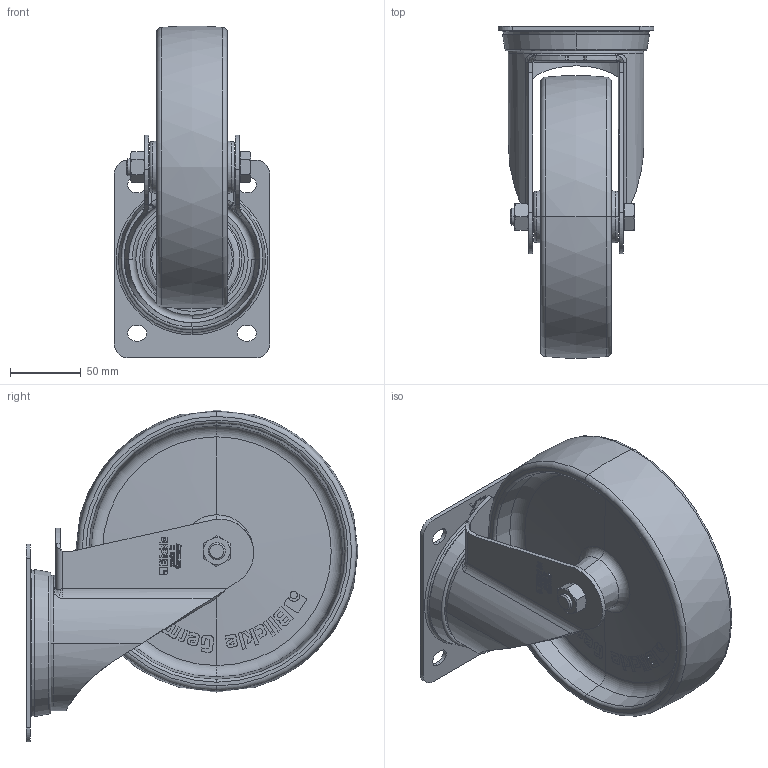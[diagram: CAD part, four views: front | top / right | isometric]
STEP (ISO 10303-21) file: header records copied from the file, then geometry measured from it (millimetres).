
FILE_DESCRIPTION (( 'STEP AP214' ), '1' );
FILE_NAME ('LX-PO_200G_007518-214.step', '2022-01-06T09:48:56', ( '' ), ( '' ), 'SwSTEP 2.0', 'SolidWorks 2018', '' );
FILE_SCHEMA (( 'AUTOMOTIVE_DESIGN' ));
Length unit declared in the file: millimetre
Products named in the file (5): LX-PO_200G_007518-214; GH-LX-200x60-03_20x61_G16_3D; GH-LX_100-200_GH-LX-200x60-03_20x61; PO_200_20G_G16_3D; PO_175-200_3D_G16_PO_200_20G_005561
Assembly tree (4 placements, depth 3):
  LX-PO_200G_007518-214
    GH-LX_100-200_GH-LX-200x60-03_20x61
      GH-LX-200x60-03_20x61_G16_3D
    PO_175-200_3D_G16_PO_200_20G_005561
      PO_200_20G_G16_3D
Bounding box: 110 x 234.87 x 234.87 mm (x, y, z)
Volume: 827176.6 mm3; surface area: 217418.3 mm2
Topology: 2 solids, 6 shells, 1620 faces, 4299 edges, 2819 vertices
Faces by surface type: plane 757, bspline 632, cone 113, cylinder 62, torus 56
Entity records: 57461 total; most frequent: CARTESIAN_POINT 22263, ORIENTED_EDGE 8598, DIRECTION 4735, EDGE_CURVE 4299, VERTEX_POINT 2819, VECTOR 2113, LINE 2113, B_SPLINE_CURVE_WITH_KNOTS 1860
